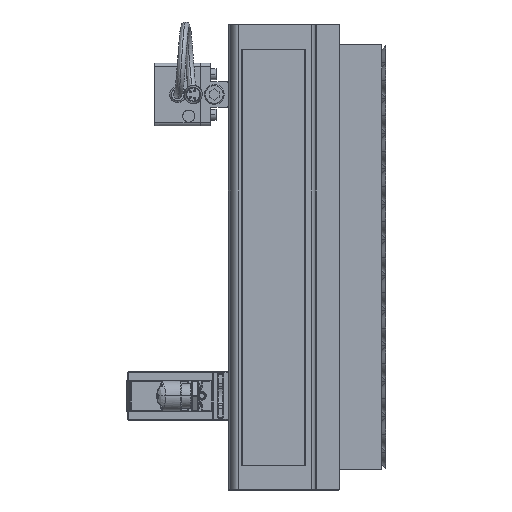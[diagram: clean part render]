
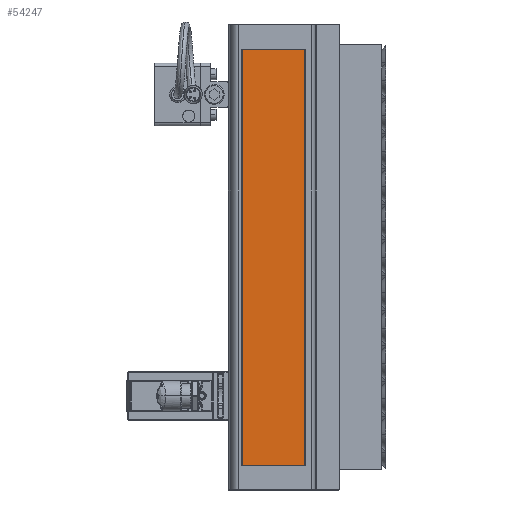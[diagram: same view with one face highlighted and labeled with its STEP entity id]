
A CAD part, left-side view. The second image highlights one B-rep face of the part: STEP entity #54247.
In plain terms, the highlighted planar face has unit normal (-1, 0, 0).
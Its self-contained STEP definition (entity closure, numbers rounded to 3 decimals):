
#1195 = EDGE_CURVE ( 'NONE', #29876, #26523, #45403, .T. ) ;
#3741 = EDGE_CURVE ( 'NONE', #26523, #45341, #38913, .T. ) ;
#5648 = ORIENTED_EDGE ( 'NONE', *, *, #3741, .F. ) ;
#7802 = AXIS2_PLACEMENT_3D ( 'NONE', #45224, #20452, #15518 ) ;
#13430 = ORIENTED_EDGE ( 'NONE', *, *, #1195, .F. ) ;
#13726 = DIRECTION ( 'NONE',  ( 0., 1., 0. ) ) ;
#15518 = DIRECTION ( 'NONE',  ( 0., 0., -1. ) ) ;
#20452 = DIRECTION ( 'NONE',  ( 1., 0., 0. ) ) ;
#24172 = ORIENTED_EDGE ( 'NONE', *, *, #33309, .F. ) ;
#26523 = VERTEX_POINT ( 'NONE', #34157 ) ;
#29876 = VERTEX_POINT ( 'NONE', #37862 ) ;
#30484 = VECTOR ( 'NONE', #13726, 1000. ) ;
#33309 = EDGE_CURVE ( 'NONE', #45341, #48799, #36928, .T. ) ;
#34157 = CARTESIAN_POINT ( 'NONE',  ( 542.22, 1109.481, 7. ) ) ;
#35707 = EDGE_LOOP ( 'NONE', ( #13430, #63068, #24172, #5648 ) ) ;
#36928 = LINE ( 'NONE', #50329, #43141 ) ;
#37862 = CARTESIAN_POINT ( 'NONE',  ( 542.22, 1109.481, 213. ) ) ;
#38539 = CARTESIAN_POINT ( 'NONE',  ( 542.22, 1109.481, 213. ) ) ;
#38913 = LINE ( 'NONE', #52917, #30484 ) ;
#40142 = LINE ( 'NONE', #55757, #50143 ) ;
#41688 = DIRECTION ( 'NONE',  ( 0., 0., 1. ) ) ;
#42387 = CARTESIAN_POINT ( 'NONE',  ( 542.22, 1141.154, 213. ) ) ;
#43141 = VECTOR ( 'NONE', #41688, 1000. ) ;
#45224 = CARTESIAN_POINT ( 'NONE',  ( 542.22, 1121.718, 220. ) ) ;
#45341 = VERTEX_POINT ( 'NONE', #60790 ) ;
#45403 = LINE ( 'NONE', #38539, #50775 ) ;
#48799 = VERTEX_POINT ( 'NONE', #42387 ) ;
#50143 = VECTOR ( 'NONE', #51235, 1000. ) ;
#50329 = CARTESIAN_POINT ( 'NONE',  ( 542.22, 1141.154, 7. ) ) ;
#50775 = VECTOR ( 'NONE', #63309, 1000. ) ;
#50950 = FACE_OUTER_BOUND ( 'NONE', #35707, .T. ) ;
#51235 = DIRECTION ( 'NONE',  ( 0., 1., 0. ) ) ;
#52917 = CARTESIAN_POINT ( 'NONE',  ( 542.22, 1109.481, 7. ) ) ;
#54247 = ADVANCED_FACE ( 'NONE', ( #50950 ), #60269, .F. ) ;
#54309 = EDGE_CURVE ( 'NONE', #29876, #48799, #40142, .T. ) ;
#55757 = CARTESIAN_POINT ( 'NONE',  ( 542.22, 1109.481, 213. ) ) ;
#60269 = PLANE ( 'NONE',  #7802 ) ;
#60790 = CARTESIAN_POINT ( 'NONE',  ( 542.22, 1141.154, 7. ) ) ;
#63068 = ORIENTED_EDGE ( 'NONE', *, *, #54309, .T. ) ;
#63309 = DIRECTION ( 'NONE',  ( 0., 0., -1. ) ) ;
